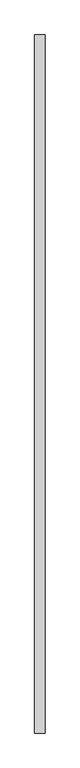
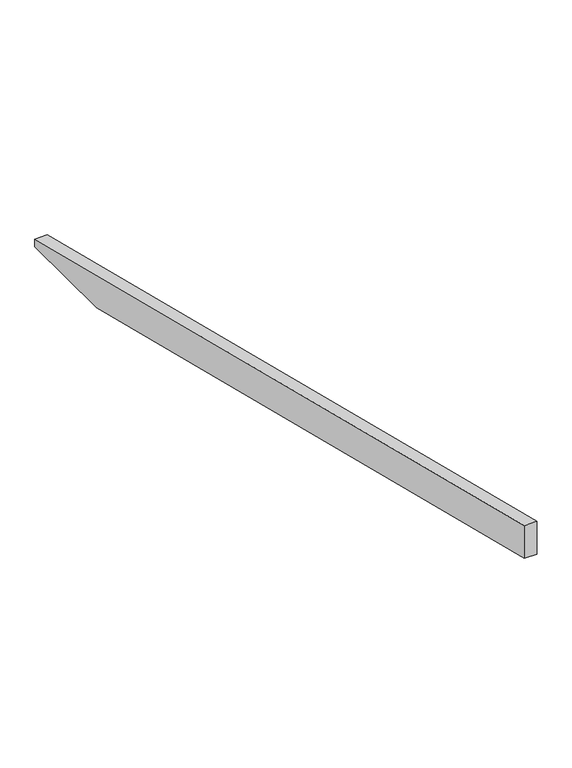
"""IFC4 building model written with IfcOpenShell, lengths in millimetres: proxy geometry, Modelos genéricos 111 : Modelos genéricos 12."""

from ifc_helpers import new_model, si_unit, frame, origin, place, context, project, spatial, polyline, outline, extrude, source, transform, mapped, element, save


def generic_models_f44428a0(model_context):
    return source(origin(), model_context, "Body", "SweptSolid", [
        extrude(outline(polyline([(6078.6238165, 3197.4798401), (6078.6238165, 3160.0), (5567.5767654, 3160.0), (2018.6238165, 4044.8533509), (2018.6238165, 4209.7515316), (6078.6238165, 3197.4798401)])), frame((5573.4472467, 0.0, 0.0), z_axis=(1.0, 0.0, 0.0), x_axis=(0.0, 1.0, 0.0)), (0.0, 0.0, 1.0), 60.0),
    ])


if __name__ == "__main__":
    model = new_model("IFC4")
    model_context = context("Model", 3, world=origin())
    ifc_project = project(units=[si_unit("LENGTHUNIT", "METRE", prefix="MILLI")], contexts=[model_context])
    site = spatial("IfcSite", under=ifc_project)
    building = spatial("IfcBuilding", under=site)
    placement = place(None, origin())
    generic_models_shape = generic_models_f44428a0(model_context)
    element("IfcBuildingElementProxy", 1, Name="Modelos genéricos 111 : Modelos genéricos 12", ObjectType="Modelos genéricos 111 : Modelos genéricos 12", at=placement, inside=building, context=model_context, shape_type="MappedRepresentation", body=[
        mapped(generic_models_shape, transform((0.0, 0.0, 0.0), x_axis=(1.0, 0.0, 0.0), y_axis=(0.0, 1.0, 0.0), z_axis=(0.0, 0.0, 1.0))),
    ])
    save(model, "model.ifc")
